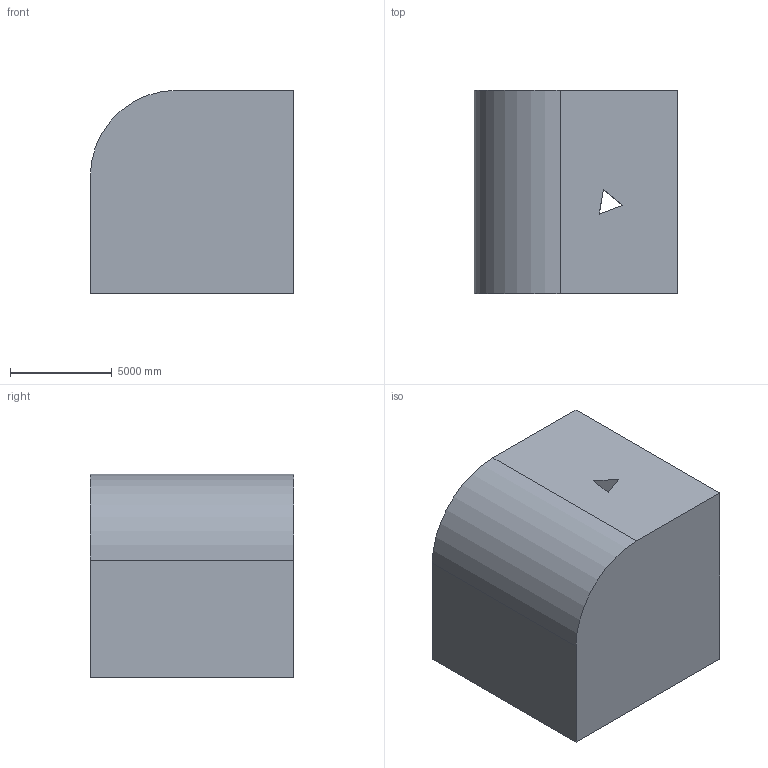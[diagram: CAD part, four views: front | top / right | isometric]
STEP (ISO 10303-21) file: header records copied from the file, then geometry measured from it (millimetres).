
FILE_DESCRIPTION (( 'STEP AP203' ), '1' );
FILE_NAME ('115.STEP', '2022-09-06T15:07:11', ( 'user' ), ( '' ), 'SwSTEP 2.0', 'SolidWorks 2021', '' );
FILE_SCHEMA (( 'CONFIG_CONTROL_DESIGN' ));
Length unit declared in the file: centimetre
Products named in the file (1): 115
Bounding box: 10000 x 10000 x 10000 mm (x, y, z)
Volume: 955082127623.7 mm3; surface area: 609936239.5 mm2
Topology: 1 solids, 1 shells, 10 faces, 24 edges, 16 vertices
Faces by surface type: plane 9, cylinder 1
Entity records: 371 total; most frequent: CARTESIAN_POINT 51, ORIENTED_EDGE 48, DIRECTION 48, EDGE_CURVE 24, LINE 22, VECTOR 22, VERTEX_POINT 16, AXIS2_PLACEMENT_3D 13
